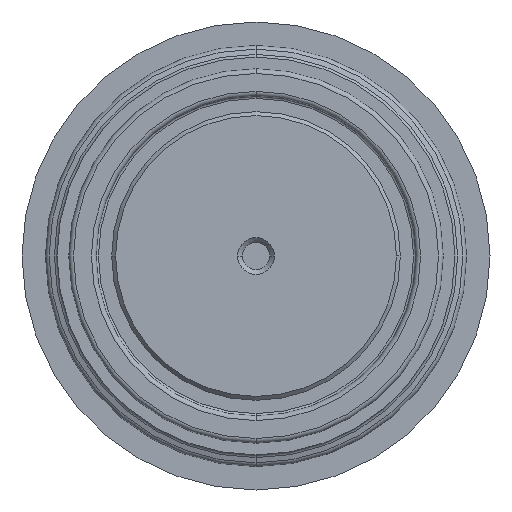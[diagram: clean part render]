
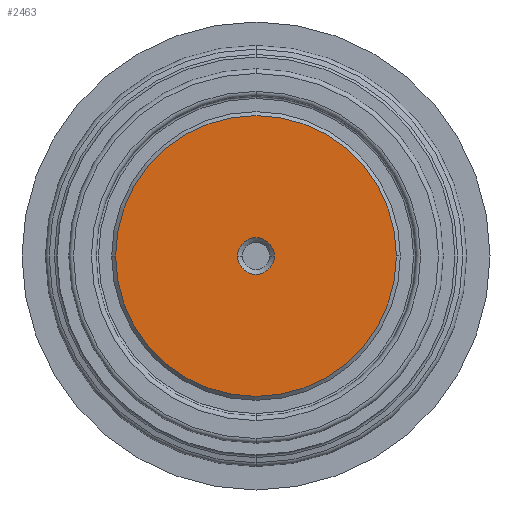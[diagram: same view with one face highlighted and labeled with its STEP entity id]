
A CAD part, front view. The second image highlights one B-rep face of the part: STEP entity #2463.
In plain terms, the highlighted planar face has unit normal (0, -1, 0).
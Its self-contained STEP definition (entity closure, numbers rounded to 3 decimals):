
#81 = CIRCLE ( 'NONE', #1234, 18. ) ;
#157 = AXIS2_PLACEMENT_3D ( 'NONE', #4974, #4158, #2157 ) ;
#291 = CIRCLE ( 'NONE', #1423, 2.35 ) ;
#417 = DIRECTION ( 'NONE',  ( -1., 0., 0. ) ) ;
#569 = PLANE ( 'NONE',  #4606 ) ;
#588 = CARTESIAN_POINT ( 'NONE',  ( 0., -20., 0. ) ) ;
#621 = VERTEX_POINT ( 'NONE', #3936 ) ;
#694 = EDGE_CURVE ( 'NONE', #3119, #2494, #81, .T. ) ;
#764 = FACE_BOUND ( 'NONE', #4505, .T. ) ;
#990 = EDGE_CURVE ( 'NONE', #2494, #3119, #1793, .T. ) ;
#1003 = ORIENTED_EDGE ( 'NONE', *, *, #694, .F. ) ;
#1234 = AXIS2_PLACEMENT_3D ( 'NONE', #4369, #2836, #417 ) ;
#1381 = CARTESIAN_POINT ( 'NONE',  ( 0., -20., 0. ) ) ;
#1423 = AXIS2_PLACEMENT_3D ( 'NONE', #588, #2618, #2228 ) ;
#1529 = CARTESIAN_POINT ( 'NONE',  ( -18., -20., 0. ) ) ;
#1543 = FACE_OUTER_BOUND ( 'NONE', #4587, .T. ) ;
#1639 = ORIENTED_EDGE ( 'NONE', *, *, #990, .F. ) ;
#1643 = ORIENTED_EDGE ( 'NONE', *, *, #1962, .T. ) ;
#1793 = CIRCLE ( 'NONE', #157, 18. ) ;
#1962 = EDGE_CURVE ( 'NONE', #621, #3164, #291, .T. ) ;
#2157 = DIRECTION ( 'NONE',  ( -1., 0., 0. ) ) ;
#2228 = DIRECTION ( 'NONE',  ( -1., 0., 0. ) ) ;
#2463 = ADVANCED_FACE ( 'NONE', ( #1543, #764 ), #569, .F. ) ;
#2494 = VERTEX_POINT ( 'NONE', #3334 ) ;
#2618 = DIRECTION ( 'NONE',  ( 0., 1., 0. ) ) ;
#2836 = DIRECTION ( 'NONE',  ( 0., 1., 0. ) ) ;
#2970 = CARTESIAN_POINT ( 'NONE',  ( -18., -20., 0. ) ) ;
#3025 = DIRECTION ( 'NONE',  ( -1., 0., 0. ) ) ;
#3089 = CIRCLE ( 'NONE', #4918, 2.35 ) ;
#3119 = VERTEX_POINT ( 'NONE', #1529 ) ;
#3164 = VERTEX_POINT ( 'NONE', #3971 ) ;
#3334 = CARTESIAN_POINT ( 'NONE',  ( 18., -20., 0. ) ) ;
#3397 = EDGE_CURVE ( 'NONE', #3164, #621, #3089, .T. ) ;
#3936 = CARTESIAN_POINT ( 'NONE',  ( 2.35, -20., 0. ) ) ;
#3971 = CARTESIAN_POINT ( 'NONE',  ( -2.35, -20., 0. ) ) ;
#4048 = ORIENTED_EDGE ( 'NONE', *, *, #3397, .T. ) ;
#4158 = DIRECTION ( 'NONE',  ( 0., 1., 0. ) ) ;
#4369 = CARTESIAN_POINT ( 'NONE',  ( 0., -20., 0. ) ) ;
#4502 = DIRECTION ( 'NONE',  ( -1., 0., 0. ) ) ;
#4505 = EDGE_LOOP ( 'NONE', ( #1643, #4048 ) ) ;
#4524 = DIRECTION ( 'NONE',  ( 0., 1., 0. ) ) ;
#4587 = EDGE_LOOP ( 'NONE', ( #1003, #1639 ) ) ;
#4606 = AXIS2_PLACEMENT_3D ( 'NONE', #2970, #4524, #4502 ) ;
#4918 = AXIS2_PLACEMENT_3D ( 'NONE', #1381, #5015, #3025 ) ;
#4974 = CARTESIAN_POINT ( 'NONE',  ( 0., -20., 0. ) ) ;
#5015 = DIRECTION ( 'NONE',  ( 0., 1., 0. ) ) ;
